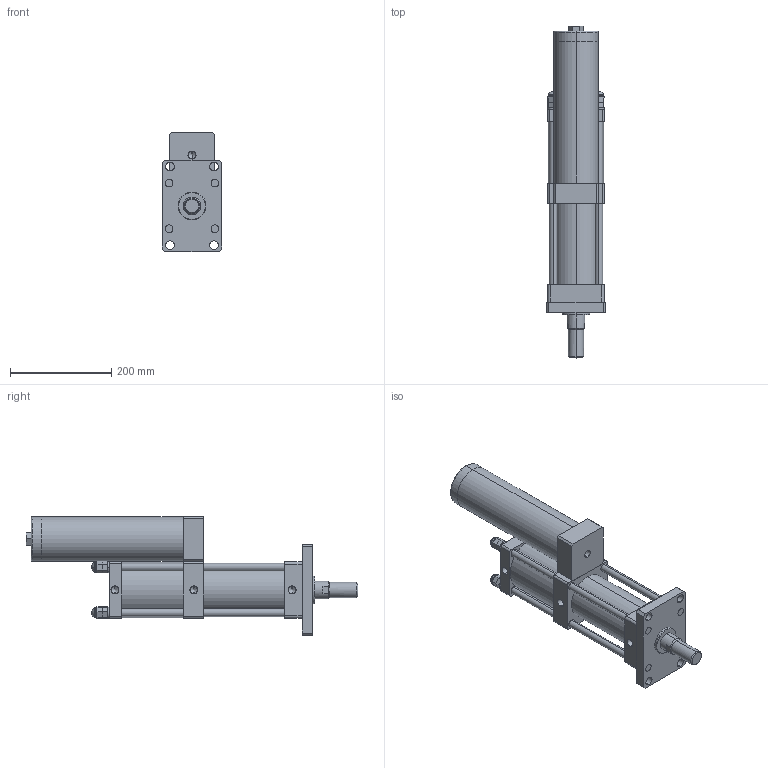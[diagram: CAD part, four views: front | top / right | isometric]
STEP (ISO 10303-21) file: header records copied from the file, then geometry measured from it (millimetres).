
FILE_DESCRIPTION (( 'STEP AP203' ), '1' );
FILE_NAME ('MPT-80-100-5-5T.STEP', '2016-03-11T01:37:40', ( 'WIN' ), ( '' ), 'SwSTEP 2.0', 'SolidWorks 2014', '' );
FILE_SCHEMA (( 'CONFIG_CONTROL_DESIGN' ));
Length unit declared in the file: millimetre
Products named in the file (1): MPT-80-100-5-5T
Bounding box: 118 x 655 x 235 mm (x, y, z)
Volume: 4775031.7 mm3; surface area: 617445.7 mm2
Topology: 20 solids, 20 shells, 391 faces, 954 edges, 554 vertices
Faces by surface type: plane 184, cylinder 84, torus 48, bspline 48, cone 27
Entity records: 12532 total; most frequent: CARTESIAN_POINT 3676, DIRECTION 1861, ORIENTED_EDGE 1776, EDGE_CURVE 888, AXIS2_PLACEMENT_3D 683, VERTEX_POINT 554, LINE 495, VECTOR 495
